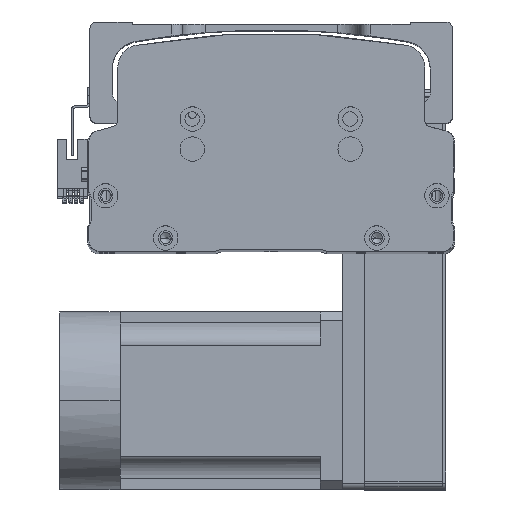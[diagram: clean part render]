
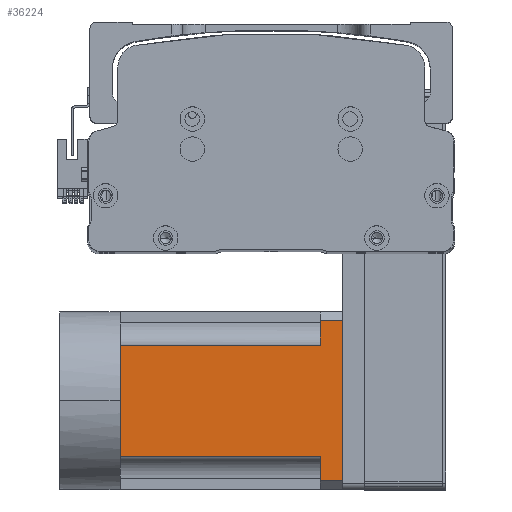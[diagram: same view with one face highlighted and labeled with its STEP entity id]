
A CAD part, top view. The second image highlights one B-rep face of the part: STEP entity #36224.
In plain terms, the highlighted planar face has unit normal (0, 0, 1) as drawn and (0, 0, -1) by its records, which use the part's own axes.
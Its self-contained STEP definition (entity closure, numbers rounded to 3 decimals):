
#414 = EDGE_CURVE ( 'NONE', #51717, #15665, #13777, .T. ) ;
#504 = LINE ( 'NONE', #57413, #36897 ) ;
#574 = DIRECTION ( 'NONE',  ( -1., 0., 0. ) ) ;
#1403 = VERTEX_POINT ( 'NONE', #61450 ) ;
#2310 = LINE ( 'NONE', #29611, #60964 ) ;
#2679 = FACE_OUTER_BOUND ( 'NONE', #40566, .T. ) ;
#2966 = CARTESIAN_POINT ( 'NONE',  ( 36., 100., -40. ) ) ;
#2976 = ORIENTED_EDGE ( 'NONE', *, *, #44385, .T. ) ;
#3383 = DIRECTION ( 'NONE',  ( -1., 0., 0. ) ) ;
#3410 = CARTESIAN_POINT ( 'NONE',  ( 36., -27., -40. ) ) ;
#4050 = ORIENTED_EDGE ( 'NONE', *, *, #23111, .T. ) ;
#5727 = DIRECTION ( 'NONE',  ( -1., 0., 0. ) ) ;
#7888 = ORIENTED_EDGE ( 'NONE', *, *, #41141, .T. ) ;
#8653 = VECTOR ( 'NONE', #42282, 1000. ) ;
#9452 = EDGE_CURVE ( 'NONE', #58694, #1403, #29090, .T. ) ;
#9523 = CARTESIAN_POINT ( 'NONE',  ( -36., 90., -40. ) ) ;
#9900 = ORIENTED_EDGE ( 'NONE', *, *, #47224, .F. ) ;
#10166 = LINE ( 'NONE', #56582, #8653 ) ;
#11077 = DIRECTION ( 'NONE',  ( -1., 0., 0. ) ) ;
#11277 = VECTOR ( 'NONE', #11077, 1000. ) ;
#11723 = CARTESIAN_POINT ( 'NONE',  ( 36., 90., -40. ) ) ;
#12458 = PLANE ( 'NONE',  #59936 ) ;
#13777 = LINE ( 'NONE', #34242, #23416 ) ;
#13809 = VECTOR ( 'NONE', #3383, 1000. ) ;
#15291 = LINE ( 'NONE', #50732, #13809 ) ;
#15665 = VERTEX_POINT ( 'NONE', #41672 ) ;
#17229 = DIRECTION ( 'NONE',  ( -1., 0., 0. ) ) ;
#22003 = VERTEX_POINT ( 'NONE', #34360 ) ;
#23111 = EDGE_CURVE ( 'NONE', #55039, #22003, #10166, .T. ) ;
#23416 = VECTOR ( 'NONE', #5727, 1000. ) ;
#23554 = EDGE_CURVE ( 'NONE', #45704, #54558, #15291, .T. ) ;
#26587 = CARTESIAN_POINT ( 'NONE',  ( -40., -27., -40. ) ) ;
#28381 = LINE ( 'NONE', #53614, #11277 ) ;
#28423 = ORIENTED_EDGE ( 'NONE', *, *, #23554, .T. ) ;
#29090 = LINE ( 'NONE', #51562, #51334 ) ;
#29433 = LINE ( 'NONE', #29831, #40550 ) ;
#29611 = CARTESIAN_POINT ( 'NONE',  ( 25., -27., -40. ) ) ;
#29831 = CARTESIAN_POINT ( 'NONE',  ( -40., 100., -40. ) ) ;
#31897 = DIRECTION ( 'NONE',  ( 0., -1., 0. ) ) ;
#34242 = CARTESIAN_POINT ( 'NONE',  ( -40., 0., -40. ) ) ;
#34360 = CARTESIAN_POINT ( 'NONE',  ( -25., 90., -40. ) ) ;
#34427 = DIRECTION ( 'NONE',  ( 0., -1., 0. ) ) ;
#34623 = DIRECTION ( 'NONE',  ( -1., 0., 0. ) ) ;
#36224 = ADVANCED_FACE ( 'NONE', ( #2679 ), #12458, .T. ) ;
#36703 = ORIENTED_EDGE ( 'NONE', *, *, #47138, .T. ) ;
#36897 = VECTOR ( 'NONE', #574, 1000. ) ;
#39351 = LINE ( 'NONE', #3410, #50434 ) ;
#40550 = VECTOR ( 'NONE', #34623, 1000. ) ;
#40566 = EDGE_LOOP ( 'NONE', ( #9900, #52982, #28423, #2976, #58901, #7888, #4050, #36703, #57148 ) ) ;
#41141 = EDGE_CURVE ( 'NONE', #15665, #55039, #28381, .T. ) ;
#41552 = CARTESIAN_POINT ( 'NONE',  ( -25., 0., -40. ) ) ;
#41672 = CARTESIAN_POINT ( 'NONE',  ( 0., 0., -40. ) ) ;
#42282 = DIRECTION ( 'NONE',  ( 0., 1., 0. ) ) ;
#44385 = EDGE_CURVE ( 'NONE', #54558, #51717, #2310, .T. ) ;
#45696 = DIRECTION ( 'NONE',  ( 0., 0., -1. ) ) ;
#45704 = VERTEX_POINT ( 'NONE', #11723 ) ;
#47138 = EDGE_CURVE ( 'NONE', #22003, #58694, #504, .T. ) ;
#47224 = EDGE_CURVE ( 'NONE', #59626, #1403, #29433, .T. ) ;
#48506 = EDGE_CURVE ( 'NONE', #59626, #45704, #39351, .T. ) ;
#50434 = VECTOR ( 'NONE', #31897, 1000. ) ;
#50732 = CARTESIAN_POINT ( 'NONE',  ( -40., 90., -40. ) ) ;
#51078 = CARTESIAN_POINT ( 'NONE',  ( 25., 0., -40. ) ) ;
#51334 = VECTOR ( 'NONE', #61327, 1000. ) ;
#51562 = CARTESIAN_POINT ( 'NONE',  ( -36., -27., -40. ) ) ;
#51717 = VERTEX_POINT ( 'NONE', #51078 ) ;
#52982 = ORIENTED_EDGE ( 'NONE', *, *, #48506, .T. ) ;
#53404 = CARTESIAN_POINT ( 'NONE',  ( 25., 90., -40. ) ) ;
#53614 = CARTESIAN_POINT ( 'NONE',  ( -40., 0., -40. ) ) ;
#54558 = VERTEX_POINT ( 'NONE', #53404 ) ;
#55039 = VERTEX_POINT ( 'NONE', #41552 ) ;
#56582 = CARTESIAN_POINT ( 'NONE',  ( -25., -27., -40. ) ) ;
#57148 = ORIENTED_EDGE ( 'NONE', *, *, #9452, .T. ) ;
#57413 = CARTESIAN_POINT ( 'NONE',  ( -40., 90., -40. ) ) ;
#58694 = VERTEX_POINT ( 'NONE', #9523 ) ;
#58901 = ORIENTED_EDGE ( 'NONE', *, *, #414, .T. ) ;
#59626 = VERTEX_POINT ( 'NONE', #2966 ) ;
#59936 = AXIS2_PLACEMENT_3D ( 'NONE', #26587, #45696, #17229 ) ;
#60964 = VECTOR ( 'NONE', #34427, 1000. ) ;
#61327 = DIRECTION ( 'NONE',  ( 0., 1., 0. ) ) ;
#61450 = CARTESIAN_POINT ( 'NONE',  ( -36., 100., -40. ) ) ;
